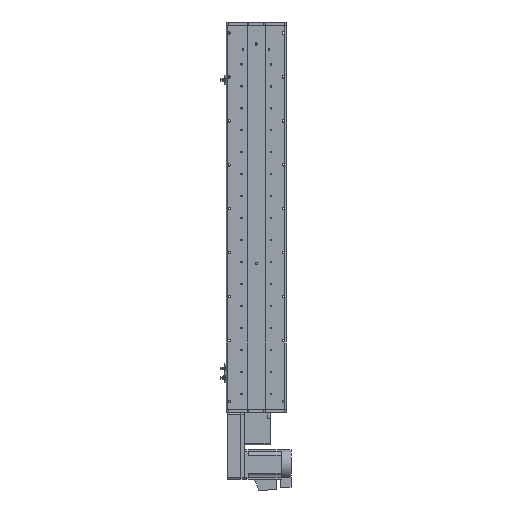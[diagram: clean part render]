
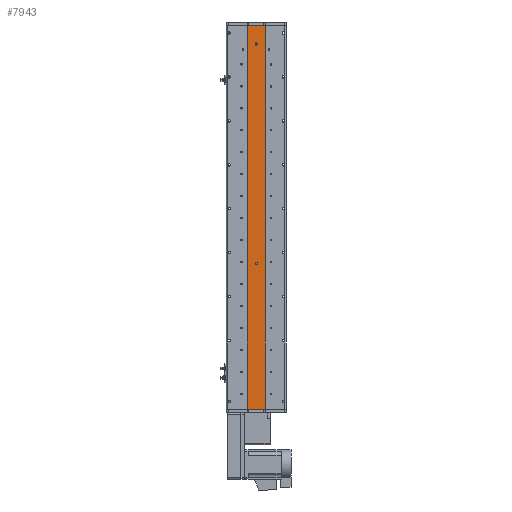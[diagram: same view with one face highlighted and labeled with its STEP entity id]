
A CAD part, front view. The second image highlights one B-rep face of the part: STEP entity #7943.
In plain terms, the highlighted planar face has unit normal (0, -1, 0).
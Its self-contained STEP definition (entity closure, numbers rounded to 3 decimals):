
#2382 = AXIS2_PLACEMENT_3D ( 'NONE', #25540, #59981, #30483 ) ;
#2525 = CARTESIAN_POINT ( 'NONE',  ( -25., 1., -523.5 ) ) ;
#2639 = EDGE_CURVE ( 'NONE', #5146, #6866, #27194, .T. ) ;
#3446 = DIRECTION ( 'NONE',  ( 0., 0., -1. ) ) ;
#3478 = CARTESIAN_POINT ( 'NONE',  ( 0., 1., -129.5 ) ) ;
#3870 = DIRECTION ( 'NONE',  ( 0., 1., 0. ) ) ;
#4076 = DIRECTION ( 'NONE',  ( 0., -1., 0. ) ) ;
#4352 = EDGE_LOOP ( 'NONE', ( #25989, #8849 ) ) ;
#5146 = VERTEX_POINT ( 'NONE', #2525 ) ;
#6866 = VERTEX_POINT ( 'NONE', #59566 ) ;
#6889 = EDGE_CURVE ( 'NONE', #50334, #60472, #19637, .T. ) ;
#7864 = EDGE_CURVE ( 'NONE', #49615, #45810, #18715, .T. ) ;
#7943 = ADVANCED_FACE ( 'NONE', ( #62940, #10484, #49852 ), #28750, .F. ) ;
#8151 = DIRECTION ( 'NONE',  ( 0., -1., 0. ) ) ;
#8420 = EDGE_CURVE ( 'NONE', #40358, #6866, #27418, .T. ) ;
#8679 = CARTESIAN_POINT ( 'NONE',  ( 0., 1., -123.5 ) ) ;
#8849 = ORIENTED_EDGE ( 'NONE', *, *, #6889, .F. ) ;
#10484 = FACE_BOUND ( 'NONE', #54587, .T. ) ;
#12906 = LINE ( 'NONE', #57583, #63813 ) ;
#15133 = VECTOR ( 'NONE', #38165, 1000. ) ;
#17223 = ORIENTED_EDGE ( 'NONE', *, *, #43086, .F. ) ;
#18554 = EDGE_CURVE ( 'NONE', #60472, #50334, #24397, .T. ) ;
#18715 = CIRCLE ( 'NONE', #23993, 3. ) ;
#19637 = CIRCLE ( 'NONE', #2382, 3. ) ;
#20941 = AXIS2_PLACEMENT_3D ( 'NONE', #33688, #4076, #38657 ) ;
#23450 = CARTESIAN_POINT ( 'NONE',  ( -25., 1., 523.5 ) ) ;
#23562 = ORIENTED_EDGE ( 'NONE', *, *, #8420, .F. ) ;
#23993 = AXIS2_PLACEMENT_3D ( 'NONE', #62548, #33072, #3446 ) ;
#24397 = CIRCLE ( 'NONE', #48283, 3. ) ;
#25540 = CARTESIAN_POINT ( 'NONE',  ( 0., 1., 473.5 ) ) ;
#25989 = ORIENTED_EDGE ( 'NONE', *, *, #18554, .F. ) ;
#27194 = LINE ( 'NONE', #29770, #41862 ) ;
#27418 = LINE ( 'NONE', #37946, #15133 ) ;
#28750 = PLANE ( 'NONE',  #57061 ) ;
#29369 = ORIENTED_EDGE ( 'NONE', *, *, #2639, .T. ) ;
#29770 = CARTESIAN_POINT ( 'NONE',  ( 25., 1., -523.5 ) ) ;
#30295 = ORIENTED_EDGE ( 'NONE', *, *, #39758, .T. ) ;
#30483 = DIRECTION ( 'NONE',  ( 0., 0., -1. ) ) ;
#30735 = DIRECTION ( 'NONE',  ( 1., 0., 0. ) ) ;
#31858 = EDGE_LOOP ( 'NONE', ( #29369, #23562, #45872, #30295 ) ) ;
#33072 = DIRECTION ( 'NONE',  ( 0., -1., 0. ) ) ;
#33232 = DIRECTION ( 'NONE',  ( 0., 0., -1. ) ) ;
#33688 = CARTESIAN_POINT ( 'NONE',  ( 0., 1., -126.5 ) ) ;
#33916 = LINE ( 'NONE', #35702, #58559 ) ;
#35702 = CARTESIAN_POINT ( 'NONE',  ( 25., 1., 523.5 ) ) ;
#37749 = CARTESIAN_POINT ( 'NONE',  ( 0., 1., 473.5 ) ) ;
#37946 = CARTESIAN_POINT ( 'NONE',  ( 25., 1., 523.5 ) ) ;
#38165 = DIRECTION ( 'NONE',  ( 0., 0., -1. ) ) ;
#38657 = DIRECTION ( 'NONE',  ( 0., 0., -1. ) ) ;
#39758 = EDGE_CURVE ( 'NONE', #52003, #5146, #12906, .T. ) ;
#40358 = VERTEX_POINT ( 'NONE', #63309 ) ;
#41862 = VECTOR ( 'NONE', #59290, 1000. ) ;
#42734 = DIRECTION ( 'NONE',  ( 0., 0., -1. ) ) ;
#43086 = EDGE_CURVE ( 'NONE', #45810, #49615, #43994, .T. ) ;
#43994 = CIRCLE ( 'NONE', #20941, 3. ) ;
#45810 = VERTEX_POINT ( 'NONE', #8679 ) ;
#45872 = ORIENTED_EDGE ( 'NONE', *, *, #63994, .F. ) ;
#48283 = AXIS2_PLACEMENT_3D ( 'NONE', #37749, #8151, #42734 ) ;
#49069 = CARTESIAN_POINT ( 'NONE',  ( 0., 1., 470.5 ) ) ;
#49615 = VERTEX_POINT ( 'NONE', #3478 ) ;
#49852 = FACE_OUTER_BOUND ( 'NONE', #31858, .T. ) ;
#50334 = VERTEX_POINT ( 'NONE', #60946 ) ;
#52003 = VERTEX_POINT ( 'NONE', #23450 ) ;
#53325 = CARTESIAN_POINT ( 'NONE',  ( 25., 1., 523.5 ) ) ;
#54587 = EDGE_LOOP ( 'NONE', ( #59564, #17223 ) ) ;
#57061 = AXIS2_PLACEMENT_3D ( 'NONE', #53325, #3870, #63187 ) ;
#57583 = CARTESIAN_POINT ( 'NONE',  ( -25., 1., 523.5 ) ) ;
#58559 = VECTOR ( 'NONE', #30735, 1000. ) ;
#59290 = DIRECTION ( 'NONE',  ( 1., 0., 0. ) ) ;
#59564 = ORIENTED_EDGE ( 'NONE', *, *, #7864, .F. ) ;
#59566 = CARTESIAN_POINT ( 'NONE',  ( 25., 1., -523.5 ) ) ;
#59981 = DIRECTION ( 'NONE',  ( 0., -1., 0. ) ) ;
#60472 = VERTEX_POINT ( 'NONE', #49069 ) ;
#60946 = CARTESIAN_POINT ( 'NONE',  ( 0., 1., 476.5 ) ) ;
#62548 = CARTESIAN_POINT ( 'NONE',  ( 0., 1., -126.5 ) ) ;
#62940 = FACE_BOUND ( 'NONE', #4352, .T. ) ;
#63187 = DIRECTION ( 'NONE',  ( 0., 0., 1. ) ) ;
#63309 = CARTESIAN_POINT ( 'NONE',  ( 25., 1., 523.5 ) ) ;
#63813 = VECTOR ( 'NONE', #33232, 1000. ) ;
#63994 = EDGE_CURVE ( 'NONE', #52003, #40358, #33916, .T. ) ;
